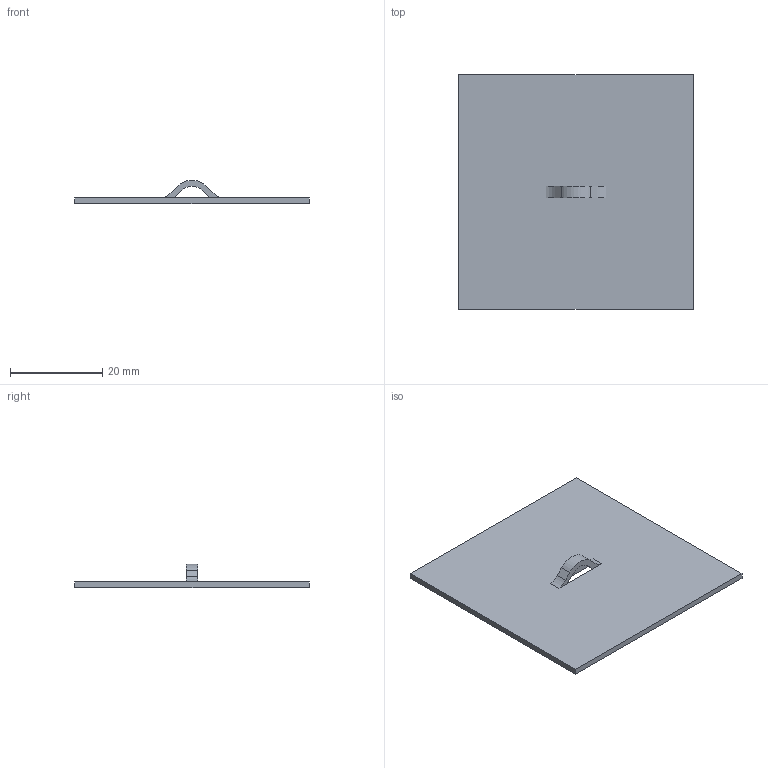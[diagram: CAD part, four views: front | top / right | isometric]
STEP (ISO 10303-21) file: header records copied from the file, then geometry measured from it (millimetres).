
FILE_DESCRIPTION((''),'1');
FILE_NAME('C:/Users/robertnolte/Desktop/WT#696372-10.stp','2012-03-28T17:16:37',(''),(''),'Spatial Interop R21 SP3','Kubotek KeyCreator 2011 V10.5.0 (24766)',' ');
FILE_SCHEMA(('CONFIG_CONTROL_DESIGN'));
Length unit declared in the file: inch
Products named in the file (1): 1
Bounding box: 50.8 x 50.8 x 5.06 mm (x, y, z)
Volume: 3285.5 mm3; surface area: 5503.3 mm2
Topology: 1 solids, 1 shells, 20 faces, 52 edges, 32 vertices
Faces by surface type: plane 14, cylinder 6
Entity records: 656 total; most frequent: DIRECTION 106, CARTESIAN_POINT 105, ORIENTED_EDGE 104, EDGE_CURVE 52, LINE 40, VECTOR 40, AXIS2_PLACEMENT_3D 33, VERTEX_POINT 32
